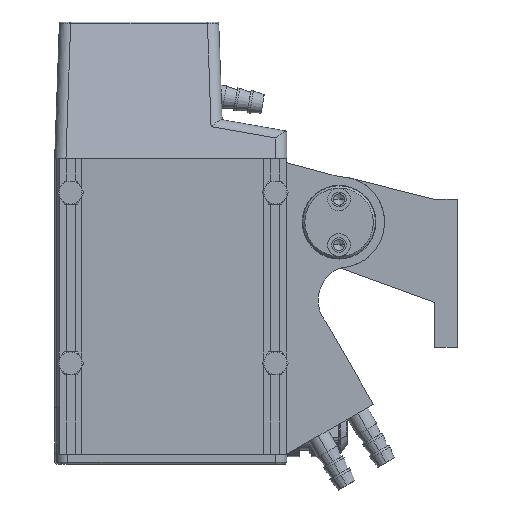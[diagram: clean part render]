
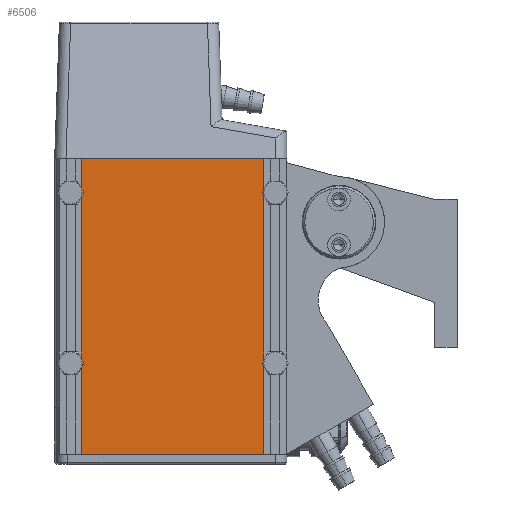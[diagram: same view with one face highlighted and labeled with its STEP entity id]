
A CAD part, left-side view. The second image highlights one B-rep face of the part: STEP entity #6506.
In plain terms, the highlighted planar face has unit normal (-1, 0, 0) as drawn and (0, 0, -1) by its records, which use the part's own axes.
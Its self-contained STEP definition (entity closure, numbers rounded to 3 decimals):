
#4874 = VERTEX_POINT ( 'NONE', #17647 ) ;
#4929 = VERTEX_POINT ( 'NONE', #17702 ) ;
#5020 = VERTEX_POINT ( 'NONE', #17793 ) ;
#5021 = VERTEX_POINT ( 'NONE', #17794 ) ;
#5358 = EDGE_LOOP ( 'NONE', ( #6229, #6230, #6231, #6232 ) ) ;
#6229 = ORIENTED_EDGE ( 'NONE', *, *, #7369, .T. ) ;
#6230 = ORIENTED_EDGE ( 'NONE', *, *, #7370, .F. ) ;
#6231 = ORIENTED_EDGE ( 'NONE', *, *, #7371, .T. ) ;
#6232 = ORIENTED_EDGE ( 'NONE', *, *, #7372, .F. ) ;
#6506 = ADVANCED_FACE ( 'NONE', ( #19116 ), #19110, .T. ) ;
#7369 = EDGE_CURVE ( 'NONE', #4929, #5021, #25350, .T. ) ;
#7370 = EDGE_CURVE ( 'NONE', #5020, #5021, #25349, .T. ) ;
#7371 = EDGE_CURVE ( 'NONE', #5020, #4874, #25348, .T. ) ;
#7372 = EDGE_CURVE ( 'NONE', #4929, #4874, #25361, .T. ) ;
#17647 = CARTESIAN_POINT ( 'NONE',  ( 0., 90., -4. ) ) ;
#17702 = CARTESIAN_POINT ( 'NONE',  ( 130., 90., -4. ) ) ;
#17793 = CARTESIAN_POINT ( 'NONE',  ( 0., 10., -4. ) ) ;
#17794 = CARTESIAN_POINT ( 'NONE',  ( 130., 10., -4. ) ) ;
#19110 = PLANE ( 'NONE',  #22335 ) ;
#19113 = CARTESIAN_POINT ( 'NONE',  ( 130., 0., -4. ) ) ;
#19116 = FACE_OUTER_BOUND ( 'NONE', #5358, .T. ) ;
#19118 = DIRECTION ( 'NONE',  ( 0., 0., -1. ) ) ;
#19119 = DIRECTION ( 'NONE',  ( -1., 0., 0. ) ) ;
#22335 = AXIS2_PLACEMENT_3D ( 'NONE', #19113, #19118, #19119 ) ;
#25346 = CARTESIAN_POINT ( 'NONE',  ( 130., 100., -4. ) ) ;
#25348 = LINE ( 'NONE', #25359, #25604 ) ;
#25349 = LINE ( 'NONE', #25356, #25602 ) ;
#25350 = LINE ( 'NONE', #25346, #25601 ) ;
#25355 = DIRECTION ( 'NONE',  ( 0., -1., 0. ) ) ;
#25356 = CARTESIAN_POINT ( 'NONE',  ( 130., 10., -4. ) ) ;
#25358 = DIRECTION ( 'NONE',  ( 1., 0., 0. ) ) ;
#25359 = CARTESIAN_POINT ( 'NONE',  ( 0., 100., -4. ) ) ;
#25360 = DIRECTION ( 'NONE',  ( 0., 1., 0. ) ) ;
#25361 = LINE ( 'NONE', #25363, #25606 ) ;
#25363 = CARTESIAN_POINT ( 'NONE',  ( 130., 90., -4. ) ) ;
#25364 = DIRECTION ( 'NONE',  ( -1., 0., 0. ) ) ;
#25601 = VECTOR ( 'NONE', #25355, 1000. ) ;
#25602 = VECTOR ( 'NONE', #25358, 1000. ) ;
#25604 = VECTOR ( 'NONE', #25360, 1000. ) ;
#25606 = VECTOR ( 'NONE', #25364, 1000. ) ;
